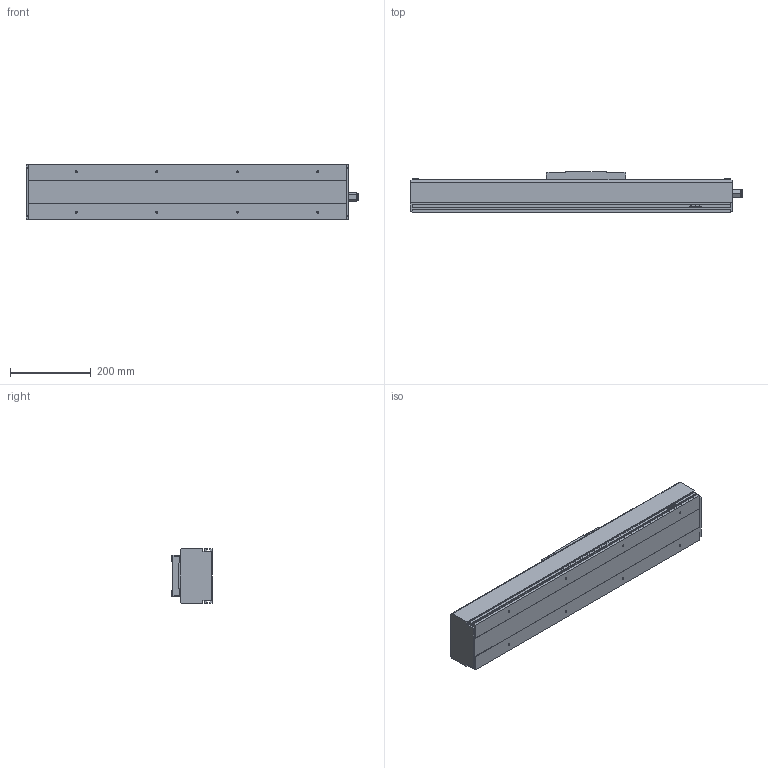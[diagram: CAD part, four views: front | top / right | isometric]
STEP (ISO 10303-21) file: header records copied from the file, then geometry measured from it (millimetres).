
FILE_DESCRIPTION(/* description */ (''),/* implementation_level */ '2;1');
FILE_NAME(/* name */ 'D:\混合母檔20191031\混和母檔\混和母檔\bin\Debug\Download\3D\KS140-10C-300AFI\KS140-10C-300AFI.stp',/* time_stamp */ '2019-11-04T15:31:45+08:00',/* author */ ('user'),/* organization */ (''),/* preprocessor_version */ 'ST-DEVELOPER v16.13',/* originating_system */ 'Autodesk Inventor 2018',/* authorisation */ '');
FILE_SCHEMA (('AUTOMOTIVE_DESIGN { 1 0 10303 214 3 1 1 }'));
Length unit declared in the file: millimetre
Products named in the file (3): KS140-10C-300AFI; KS140-FI-BP; KS140-SL
Assembly tree (2 placements, depth 2):
  KS140-10C-300AFI
    KS140-FI-BP
    KS140-SL
Bounding box: 824.5 x 101 x 136 mm (x, y, z)
Volume: 3260917.3 mm3; surface area: 839971.4 mm2
Topology: 4 solids, 8 shells, 675 faces, 1855 edges, 1219 vertices
Faces by surface type: plane 373, bspline 136, cylinder 76, cone 70, torus 16, sphere 4
Full cylindrical faces by diameter (mm): 3.571 x8, 4 x4, 4.134 x4, 4.3 x4, 4.917 x12, 6 x2, 8 x3, 8.4 x4, 12 x2, 13.1 x1, 15 x1, 18.75 x2, 46 x1, 50 x1
Entity records: 21897 total; most frequent: CARTESIAN_POINT 5893, ORIENTED_EDGE 3444, DIRECTION 2787, EDGE_CURVE 1721, VERTEX_POINT 1176, LINE 1143, VECTOR 1143, AXIS2_PLACEMENT_3D 822
